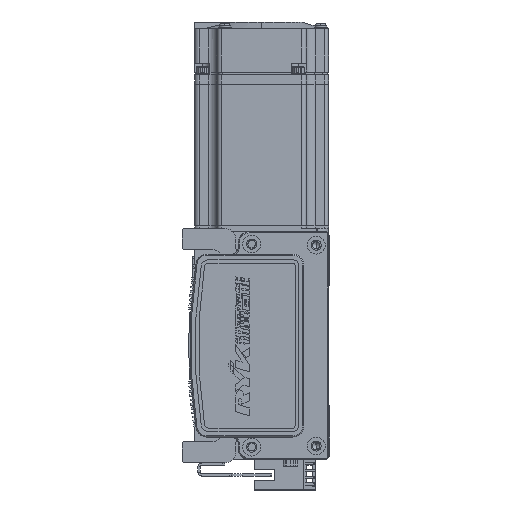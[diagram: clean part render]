
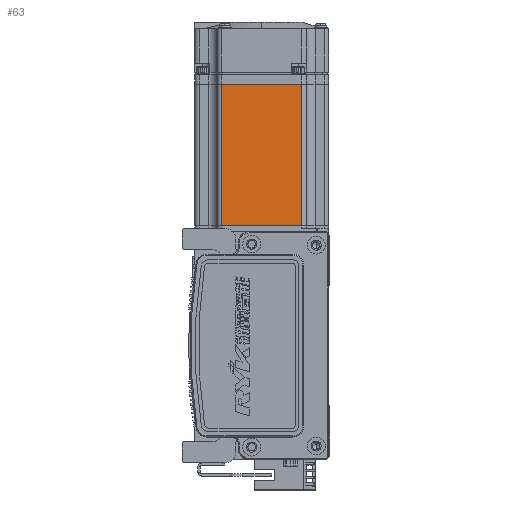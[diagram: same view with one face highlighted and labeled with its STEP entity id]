
A CAD part, left-side view. The second image highlights one B-rep face of the part: STEP entity #63.
In plain terms, the highlighted planar face has unit normal (-1, 0, 0) as drawn and (0, 0, -1) by its records, which use the part's own axes.
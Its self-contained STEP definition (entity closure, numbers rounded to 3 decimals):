
#63 = ADVANCED_FACE ( 'NONE', ( #28072 ), #62772, .T. ) ;
#1149 = VERTEX_POINT ( 'NONE', #34997 ) ;
#2484 = ORIENTED_EDGE ( 'NONE', *, *, #41634, .T. ) ;
#4064 = DIRECTION ( 'NONE',  ( 1., 0., 0. ) ) ;
#6538 = LINE ( 'NONE', #67305, #60900 ) ;
#6798 = CARTESIAN_POINT ( 'NONE',  ( -70.95, 18., -30. ) ) ;
#7416 = VECTOR ( 'NONE', #30616, 1000. ) ;
#8624 = VERTEX_POINT ( 'NONE', #6798 ) ;
#12797 = DIRECTION ( 'NONE',  ( 0., -1., 0. ) ) ;
#13992 = CARTESIAN_POINT ( 'NONE',  ( -6.5, -18., -30. ) ) ;
#15425 = DIRECTION ( 'NONE',  ( 0., 0., -1. ) ) ;
#19124 = LINE ( 'NONE', #28947, #31508 ) ;
#19890 = VERTEX_POINT ( 'NONE', #58396 ) ;
#20212 = DIRECTION ( 'NONE',  ( 0., 1., 0. ) ) ;
#23935 = LINE ( 'NONE', #13992, #7416 ) ;
#26240 = CARTESIAN_POINT ( 'NONE',  ( -7.75, 25., -30. ) ) ;
#26743 = EDGE_CURVE ( 'NONE', #8624, #19890, #6538, .T. ) ;
#27585 = LINE ( 'NONE', #26240, #52231 ) ;
#28072 = FACE_OUTER_BOUND ( 'NONE', #54069, .T. ) ;
#28947 = CARTESIAN_POINT ( 'NONE',  ( -70.95, 25., -30. ) ) ;
#30616 = DIRECTION ( 'NONE',  ( -1., 0., 0. ) ) ;
#31370 = CARTESIAN_POINT ( 'NONE',  ( -6.5, 25., -30. ) ) ;
#31508 = VECTOR ( 'NONE', #20212, 1000. ) ;
#34997 = CARTESIAN_POINT ( 'NONE',  ( -7.75, -18., -30. ) ) ;
#39951 = ORIENTED_EDGE ( 'NONE', *, *, #26743, .T. ) ;
#41634 = EDGE_CURVE ( 'NONE', #1149, #43006, #23935, .T. ) ;
#43006 = VERTEX_POINT ( 'NONE', #49169 ) ;
#49169 = CARTESIAN_POINT ( 'NONE',  ( -70.95, -18., -30. ) ) ;
#52231 = VECTOR ( 'NONE', #12797, 1000. ) ;
#52560 = AXIS2_PLACEMENT_3D ( 'NONE', #31370, #15425, #62546 ) ;
#53671 = EDGE_CURVE ( 'NONE', #19890, #1149, #27585, .T. ) ;
#54069 = EDGE_LOOP ( 'NONE', ( #60031, #2484, #58989, #39951 ) ) ;
#55217 = EDGE_CURVE ( 'NONE', #43006, #8624, #19124, .T. ) ;
#58396 = CARTESIAN_POINT ( 'NONE',  ( -7.75, 18., -30. ) ) ;
#58989 = ORIENTED_EDGE ( 'NONE', *, *, #55217, .T. ) ;
#60031 = ORIENTED_EDGE ( 'NONE', *, *, #53671, .T. ) ;
#60900 = VECTOR ( 'NONE', #4064, 1000. ) ;
#62546 = DIRECTION ( 'NONE',  ( -1., 0., 0. ) ) ;
#62772 = PLANE ( 'NONE',  #52560 ) ;
#67305 = CARTESIAN_POINT ( 'NONE',  ( -6.5, 18., -30. ) ) ;
